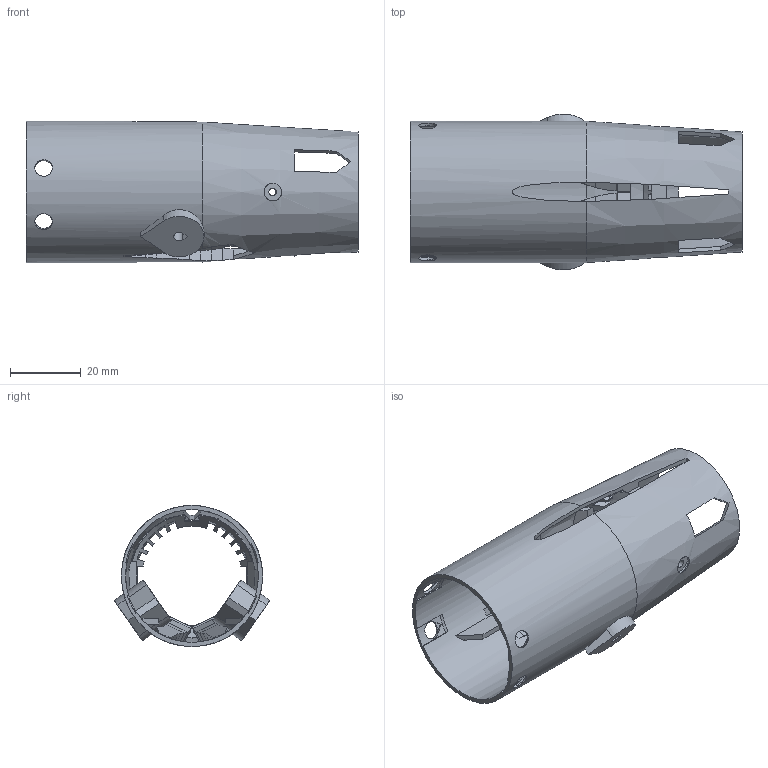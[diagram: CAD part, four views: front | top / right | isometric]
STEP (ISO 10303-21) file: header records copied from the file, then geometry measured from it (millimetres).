
FILE_DESCRIPTION(('SkyG Speed 90B - revision C6B-12 - 2026-10-11','F3-tail-module'),'2;1');
FILE_NAME('F3-tail-module_C6B-12','2026-10-11T16:48:42',('Author'),( 'Open CASCADE'),'Open CASCADE STEP processor 7.9','Open CASCADE 7.9' ,'Unknown');
FILE_SCHEMA(('AUTOMOTIVE_DESIGN { 1 0 10303 214 1 1 1 1 }'));
Length unit declared in the file: millimetre
Products named in the file (1): F3-tail-module C6B-12
Bounding box: 94 x 44.07 x 40 mm (x, y, z)
Volume: 16818 mm3; surface area: 24198.7 mm2
Topology: 1 solids, 1 shells, 405 faces, 1233 edges, 824 vertices
Faces by surface type: plane 273, cylinder 84, bspline 36, cone 12
Full cylindrical faces by diameter (mm): 2.2 x2, 37.6 x1, 40 x1
Entity records: 39710 total; most frequent: CARTESIAN_POINT 17793, DIRECTION 3320, ORIENTED_EDGE 2466, PCURVE 2466, DEFINITIONAL_REPRESENTATION 2466, LINE 1610, VECTOR 1610, B_SPLINE_CURVE_WITH_KNOTS 1427
